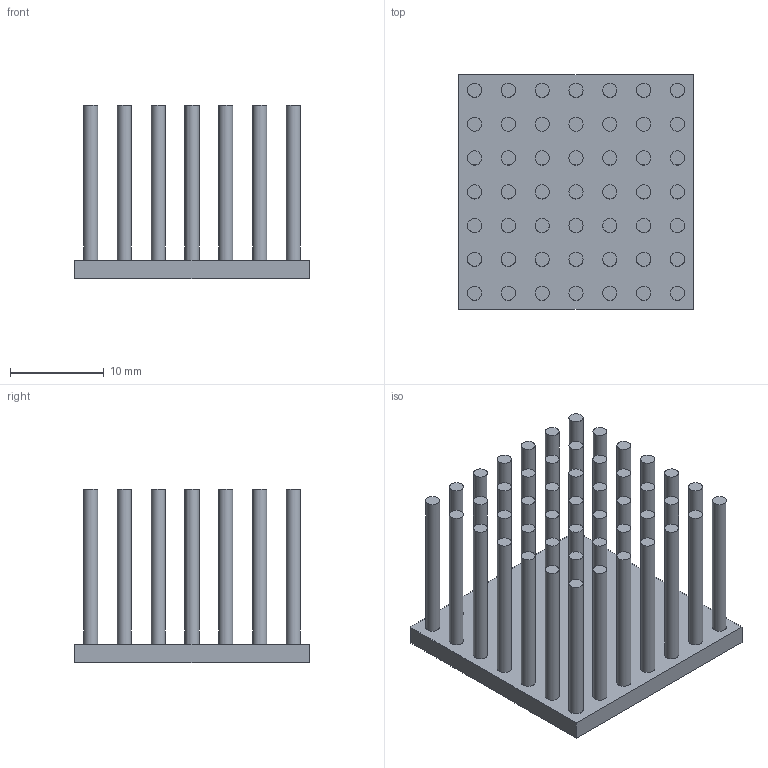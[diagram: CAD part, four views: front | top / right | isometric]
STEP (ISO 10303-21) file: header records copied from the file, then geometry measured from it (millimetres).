
FILE_DESCRIPTION(/* description */ (''),/* implementation_level */ '2;1');
FILE_NAME(/* name */ 'PB2525-B2-H18.5-P49.stp',/* time_stamp */ '2013-12-30T13:43:32+08:00',/* author */ (''),/* organization */ (''),/* preprocessor_version */ 'ST-DEVELOPER v14',/* originating_system */ 'SIEMENS PLM Software NX 8.0',/* authorisation */ '');
FILE_SCHEMA (('CONFIG_CONTROL_DESIGN'));
Length unit declared in the file: millimetre
Products named in the file (1): PB2525-P49
Bounding box: 25 x 25 x 18.5 mm (x, y, z)
Volume: 2678.7 mm3; surface area: 5260 mm2
Topology: 1 solids, 1 shells, 104 faces, 159 edges, 106 vertices
Faces by surface type: plane 55, cylinder 49
Full cylindrical faces by diameter (mm): 1.5 x49
Entity records: 2200 total; most frequent: DIRECTION 418, CARTESIAN_POINT 321, ORIENTED_EDGE 220, AXIS2_PLACEMENT_3D 203, EDGE_LOOP 202, FACE_BOUND 148, EDGE_CURVE 110, VERTEX_POINT 106
